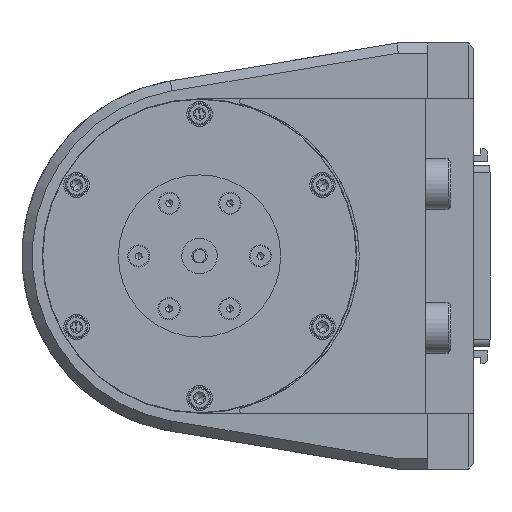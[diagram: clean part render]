
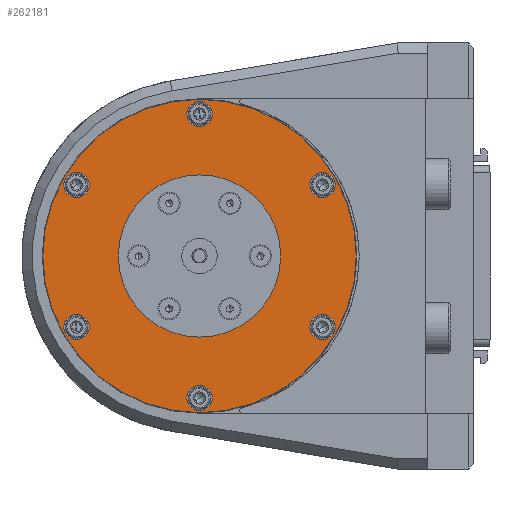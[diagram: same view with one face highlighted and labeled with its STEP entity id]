
A CAD part, left-side view. The second image highlights one B-rep face of the part: STEP entity #262181.
In plain terms, the highlighted planar face has unit normal (-1, 0, 0) as drawn and (0, 0, -1) by its records, which use the part's own axes.
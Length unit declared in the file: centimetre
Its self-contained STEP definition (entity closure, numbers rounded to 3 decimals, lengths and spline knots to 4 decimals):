
#262020=CARTESIAN_POINT('',(-1.05,1.7321,-2.4635));
#262021=DIRECTION('',(-0.,0.,-1.));
#262022=DIRECTION('',(-0.508,0.861,0.));
#262023=AXIS2_PLACEMENT_3D('',#262020,#262021,#262022);
#262024=PLANE('',#262023);
#262025=CARTESIAN_POINT('',(1.495,-2.676,-2.4635));
#262026=VERTEX_POINT('',#262025);
#262027=CARTESIAN_POINT('',(-1.595,2.676,-2.4635));
#262028=VERTEX_POINT('',#262027);
#262029=CARTESIAN_POINT('',(-0.05,-0.,-2.4635));
#262030=DIRECTION('',(0.,-0.,1.));
#262031=DIRECTION('',(0.5,-0.866,-0.));
#262032=AXIS2_PLACEMENT_3D('',#262029,#262030,#262031);
#262033=CIRCLE('',#262032,3.09);
#262034=EDGE_CURVE('',#262026,#262028,#262033,.T.);
#262035=ORIENTED_EDGE('',*,*,#262034,.F.);
#262036=CARTESIAN_POINT('',(-0.05,-0.,-2.4635));
#262037=DIRECTION('',(0.,-0.,1.));
#262038=DIRECTION('',(0.5,-0.866,-0.));
#262039=AXIS2_PLACEMENT_3D('',#262036,#262037,#262038);
#262040=CIRCLE('',#262039,3.09);
#262041=EDGE_CURVE('',#262028,#262026,#262040,.T.);
#262042=ORIENTED_EDGE('',*,*,#262041,.F.);
#262043=EDGE_LOOP('',(#262035,#262042));
#262044=FACE_BOUND('',#262043,.T.);
#262045=CARTESIAN_POINT('',(-0.2665,-2.925,-2.4635));
#262046=VERTEX_POINT('',#262045);
#262047=CARTESIAN_POINT('',(-0.05,-2.8,-2.4635));
#262048=DIRECTION('',(0.,-0.,1.));
#262049=DIRECTION('',(-0.866,-0.5,-0.));
#262050=AXIS2_PLACEMENT_3D('',#262047,#262048,#262049);
#262051=CIRCLE('',#262050,0.25);
#262052=EDGE_CURVE('',#262046,#262046,#262051,.T.);
#262053=ORIENTED_EDGE('',*,*,#262052,.T.);
#262054=EDGE_LOOP('',(#262053));
#262055=FACE_BOUND('',#262054,.T.);
#262056=CARTESIAN_POINT('',(2.1584,-1.525,-2.4635));
#262057=VERTEX_POINT('',#262056);
#262058=CARTESIAN_POINT('',(2.3749,-1.4,-2.4635));
#262059=DIRECTION('',(0.,-0.,1.));
#262060=DIRECTION('',(-0.866,-0.5,-0.));
#262061=AXIS2_PLACEMENT_3D('',#262058,#262059,#262060);
#262062=CIRCLE('',#262061,0.25);
#262063=EDGE_CURVE('',#262057,#262057,#262062,.T.);
#262064=ORIENTED_EDGE('',*,*,#262063,.T.);
#262065=EDGE_LOOP('',(#262064));
#262066=FACE_BOUND('',#262065,.T.);
#262067=CARTESIAN_POINT('',(2.1584,1.275,-2.4635));
#262068=VERTEX_POINT('',#262067);
#262069=CARTESIAN_POINT('',(2.3749,1.4,-2.4635));
#262070=DIRECTION('',(0.,-0.,1.));
#262071=DIRECTION('',(-0.866,-0.5,-0.));
#262072=AXIS2_PLACEMENT_3D('',#262069,#262070,#262071);
#262073=CIRCLE('',#262072,0.25);
#262074=EDGE_CURVE('',#262068,#262068,#262073,.T.);
#262075=ORIENTED_EDGE('',*,*,#262074,.T.);
#262076=EDGE_LOOP('',(#262075));
#262077=FACE_BOUND('',#262076,.T.);
#262078=CARTESIAN_POINT('',(-0.2665,2.675,-2.4635));
#262079=VERTEX_POINT('',#262078);
#262080=CARTESIAN_POINT('',(-0.05,2.8,-2.4635));
#262081=DIRECTION('',(0.,-0.,1.));
#262082=DIRECTION('',(-0.866,-0.5,-0.));
#262083=AXIS2_PLACEMENT_3D('',#262080,#262081,#262082);
#262084=CIRCLE('',#262083,0.25);
#262085=EDGE_CURVE('',#262079,#262079,#262084,.T.);
#262086=ORIENTED_EDGE('',*,*,#262085,.T.);
#262087=EDGE_LOOP('',(#262086));
#262088=FACE_BOUND('',#262087,.T.);
#262089=CARTESIAN_POINT('',(-2.6914,1.275,-2.4635));
#262090=VERTEX_POINT('',#262089);
#262091=CARTESIAN_POINT('',(-2.4749,1.4,-2.4635));
#262092=DIRECTION('',(0.,-0.,1.));
#262093=DIRECTION('',(-0.866,-0.5,-0.));
#262094=AXIS2_PLACEMENT_3D('',#262091,#262092,#262093);
#262095=CIRCLE('',#262094,0.25);
#262096=EDGE_CURVE('',#262090,#262090,#262095,.T.);
#262097=ORIENTED_EDGE('',*,*,#262096,.T.);
#262098=EDGE_LOOP('',(#262097));
#262099=FACE_BOUND('',#262098,.T.);
#262100=CARTESIAN_POINT('',(-2.6914,-1.525,-2.4635));
#262101=VERTEX_POINT('',#262100);
#262102=CARTESIAN_POINT('',(-2.4749,-1.4,-2.4635));
#262103=DIRECTION('',(0.,-0.,1.));
#262104=DIRECTION('',(-0.866,-0.5,-0.));
#262105=AXIS2_PLACEMENT_3D('',#262102,#262103,#262104);
#262106=CIRCLE('',#262105,0.25);
#262107=EDGE_CURVE('',#262101,#262101,#262106,.T.);
#262108=ORIENTED_EDGE('',*,*,#262107,.T.);
#262109=EDGE_LOOP('',(#262108));
#262110=FACE_BOUND('',#262109,.T.);
#262111=CARTESIAN_POINT('',(0.7007,0.5489,-2.4635));
#262112=VERTEX_POINT('',#262111);
#262113=CARTESIAN_POINT('',(1.1961,0.8349,-2.4635));
#262114=VERTEX_POINT('',#262113);
#262115=CARTESIAN_POINT('',(0.7007,0.5489,-2.4635));
#262116=DIRECTION('',(0.866,0.5,0.));
#262117=VECTOR('',#262116,0.5721);
#262118=LINE('',#262115,#262117);
#262119=EDGE_CURVE('',#262112,#262114,#262118,.T.);
#262120=ORIENTED_EDGE('',*,*,#262119,.T.);
#262121=CARTESIAN_POINT('',(-1.3961,-0.6617,-2.4635));
#262122=VERTEX_POINT('',#262121);
#262123=CARTESIAN_POINT('',(-0.05,-0.,-2.4635));
#262124=DIRECTION('',(0.,-0.,1.));
#262125=DIRECTION('',(-0.866,-0.5,-0.));
#262126=AXIS2_PLACEMENT_3D('',#262123,#262124,#262125);
#262127=CIRCLE('',#262126,1.5);
#262128=EDGE_CURVE('',#262114,#262122,#262127,.T.);
#262129=ORIENTED_EDGE('',*,*,#262128,.T.);
#262130=CARTESIAN_POINT('',(-0.9007,-0.3757,-2.4635));
#262131=VERTEX_POINT('',#262130);
#262132=CARTESIAN_POINT('',(-1.3961,-0.6617,-2.4635));
#262133=DIRECTION('',(0.866,0.5,-0.));
#262134=VECTOR('',#262133,0.5721);
#262135=LINE('',#262132,#262134);
#262136=EDGE_CURVE('',#262122,#262131,#262135,.T.);
#262137=ORIENTED_EDGE('',*,*,#262136,.T.);
#262138=CARTESIAN_POINT('',(-0.8007,-0.5489,-2.4635));
#262139=VERTEX_POINT('',#262138);
#262140=CARTESIAN_POINT('',(-0.05,-0.,-2.4635));
#262141=DIRECTION('',(-0.,0.,-1.));
#262142=DIRECTION('',(0.5,-0.866,-0.));
#262143=AXIS2_PLACEMENT_3D('',#262140,#262141,#262142);
#262144=CIRCLE('',#262143,0.93);
#262145=EDGE_CURVE('',#262139,#262131,#262144,.T.);
#262146=ORIENTED_EDGE('',*,*,#262145,.F.);
#262147=CARTESIAN_POINT('',(-1.2961,-0.8349,-2.4635));
#262148=VERTEX_POINT('',#262147);
#262149=CARTESIAN_POINT('',(-0.8007,-0.5489,-2.4635));
#262150=DIRECTION('',(-0.866,-0.5,0.));
#262151=VECTOR('',#262150,0.5721);
#262152=LINE('',#262149,#262151);
#262153=EDGE_CURVE('',#262139,#262148,#262152,.T.);
#262154=ORIENTED_EDGE('',*,*,#262153,.T.);
#262155=CARTESIAN_POINT('',(1.2961,0.6617,-2.4635));
#262156=VERTEX_POINT('',#262155);
#262157=CARTESIAN_POINT('',(-0.05,-0.,-2.4635));
#262158=DIRECTION('',(0.,-0.,1.));
#262159=DIRECTION('',(0.866,0.5,0.));
#262160=AXIS2_PLACEMENT_3D('',#262157,#262158,#262159);
#262161=CIRCLE('',#262160,1.5);
#262162=EDGE_CURVE('',#262148,#262156,#262161,.T.);
#262163=ORIENTED_EDGE('',*,*,#262162,.T.);
#262164=CARTESIAN_POINT('',(0.8007,0.3757,-2.4635));
#262165=VERTEX_POINT('',#262164);
#262166=CARTESIAN_POINT('',(1.2961,0.6617,-2.4635));
#262167=DIRECTION('',(-0.866,-0.5,-0.));
#262168=VECTOR('',#262167,0.5721);
#262169=LINE('',#262166,#262168);
#262170=EDGE_CURVE('',#262156,#262165,#262169,.T.);
#262171=ORIENTED_EDGE('',*,*,#262170,.T.);
#262172=CARTESIAN_POINT('',(-0.05,-0.,-2.4635));
#262173=DIRECTION('',(-0.,0.,-1.));
#262174=DIRECTION('',(0.5,-0.866,-0.));
#262175=AXIS2_PLACEMENT_3D('',#262172,#262173,#262174);
#262176=CIRCLE('',#262175,0.93);
#262177=EDGE_CURVE('',#262112,#262165,#262176,.T.);
#262178=ORIENTED_EDGE('',*,*,#262177,.F.);
#262179=EDGE_LOOP('',(#262120,#262129,#262137,#262146,#262154,#262163,#262171,#262178));
#262180=FACE_BOUND('',#262179,.T.);
#262181=ADVANCED_FACE('',(#262044,#262055,#262066,#262077,#262088,#262099,#262110,#262180),#262024,.T.);
